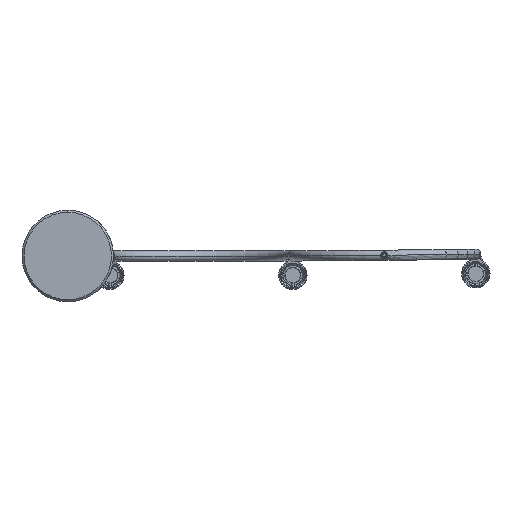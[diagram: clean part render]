
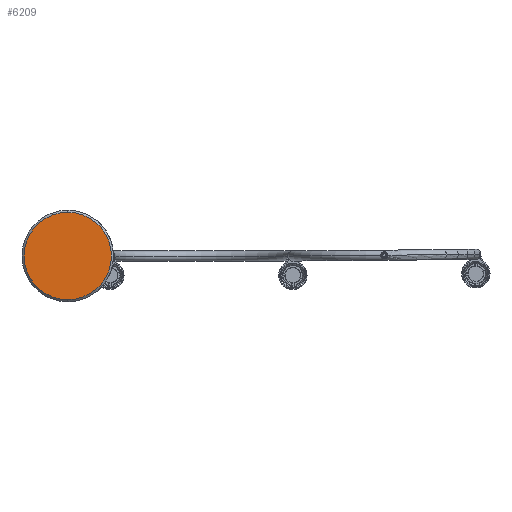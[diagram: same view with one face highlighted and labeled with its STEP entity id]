
A CAD part, front view. The second image highlights one B-rep face of the part: STEP entity #6209.
In plain terms, the highlighted planar face has unit normal (0, -1, 0).
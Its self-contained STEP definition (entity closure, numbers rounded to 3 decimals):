
#397 = ORIENTED_EDGE ( 'NONE', *, *, #12798, .T. ) ;
#5696 = AXIS2_PLACEMENT_3D ( 'NONE', #18768, #14231, #6202 ) ;
#6202 = DIRECTION ( 'NONE',  ( 0., 0., 1. ) ) ;
#6209 = ADVANCED_FACE ( 'NONE', ( #13979 ), #24549, .F. ) ;
#6389 = CIRCLE ( 'NONE', #16065, 43. ) ;
#8906 = AXIS2_PLACEMENT_3D ( 'NONE', #16642, #24820, #18422 ) ;
#9564 = ORIENTED_EDGE ( 'NONE', *, *, #24181, .T. ) ;
#12798 = EDGE_CURVE ( 'NONE', #13249, #21104, #6389, .T. ) ;
#13249 = VERTEX_POINT ( 'NONE', #25543 ) ;
#13979 = FACE_OUTER_BOUND ( 'NONE', #20960, .T. ) ;
#14231 = DIRECTION ( 'NONE',  ( 0., -1., 0. ) ) ;
#16065 = AXIS2_PLACEMENT_3D ( 'NONE', #19896, #18050, #17860 ) ;
#16642 = CARTESIAN_POINT ( 'NONE',  ( 0., 0., 0. ) ) ;
#17860 = DIRECTION ( 'NONE',  ( 0., 0., 1. ) ) ;
#18050 = DIRECTION ( 'NONE',  ( 0., -1., 0. ) ) ;
#18422 = DIRECTION ( 'NONE',  ( 0., 0., 1. ) ) ;
#18768 = CARTESIAN_POINT ( 'NONE',  ( 0., 0., 0. ) ) ;
#19896 = CARTESIAN_POINT ( 'NONE',  ( 0., 0., 0. ) ) ;
#20960 = EDGE_LOOP ( 'NONE', ( #9564, #397 ) ) ;
#21104 = VERTEX_POINT ( 'NONE', #21807 ) ;
#21807 = CARTESIAN_POINT ( 'NONE',  ( 0., 0., 43. ) ) ;
#23224 = CIRCLE ( 'NONE', #5696, 43. ) ;
#24181 = EDGE_CURVE ( 'NONE', #21104, #13249, #23224, .T. ) ;
#24549 = PLANE ( 'NONE',  #8906 ) ;
#24820 = DIRECTION ( 'NONE',  ( 0., 1., 0. ) ) ;
#25543 = CARTESIAN_POINT ( 'NONE',  ( 0., 0., -43. ) ) ;
